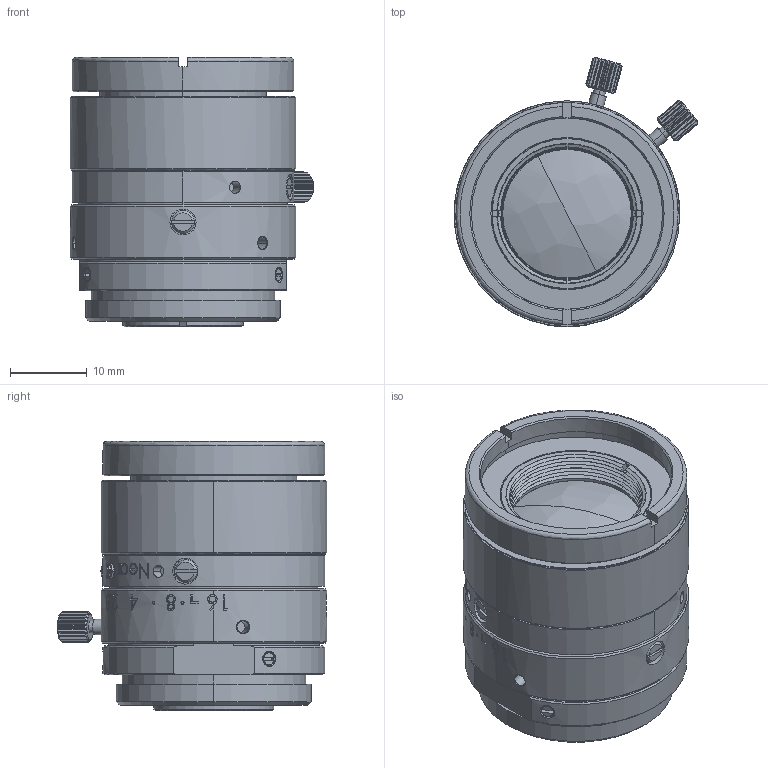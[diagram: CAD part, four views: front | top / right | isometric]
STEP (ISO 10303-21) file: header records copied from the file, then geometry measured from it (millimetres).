
FILE_DESCRIPTION (( 'STEP AP203' ), '1' );
FILE_NAME ('3D_C-ML-M3520HR.STEP', '2023-10-17T02:08:26', ( '' ), ( '' ), 'SwSTEP 2.0', 'SolidWorks 2020', '' );
FILE_SCHEMA (( 'CONFIG_CONTROL_DESIGN' ));
Length unit declared in the file: millimetre
Products named in the file (1): 3D_C-ML-M3520HR
Bounding box: 31.85 x 35.22 x 35.18 mm (x, y, z)
Volume: 19579.7 mm3; surface area: 7270.8 mm2
Topology: 1 solids, 5 shells, 951 faces, 2521 edges, 1659 vertices
Faces by surface type: cylinder 321, plane 312, bspline 206, cone 112
Entity records: 61311 total; most frequent: CARTESIAN_POINT 39678, ORIENTED_EDGE 5042, DIRECTION 3570, EDGE_CURVE 2521, VERTEX_POINT 1659, AXIS2_PLACEMENT_3D 1304, EDGE_LOOP 1036, B_SPLINE_CURVE_WITH_KNOTS 997
